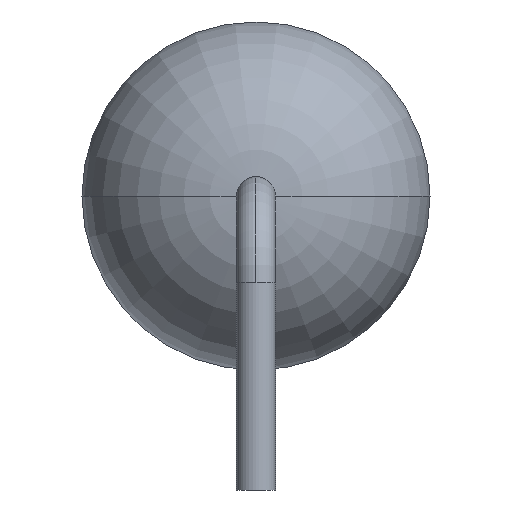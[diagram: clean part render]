
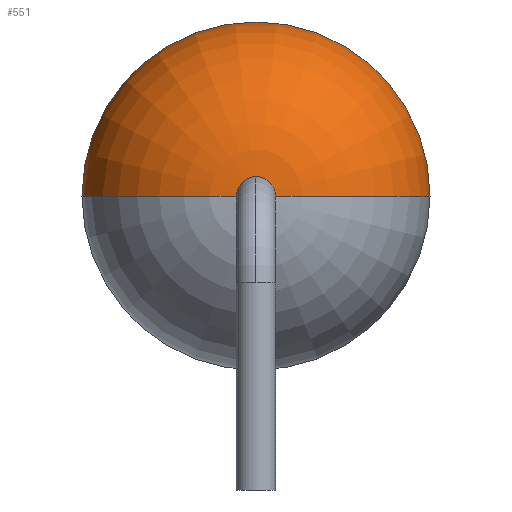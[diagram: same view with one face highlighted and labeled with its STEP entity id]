
A CAD part, left-side view. The second image highlights one B-rep face of the part: STEP entity #551.
In plain terms, the highlighted toroidal (fillet/blend) face has major radius 0.325 mm and minor radius 2.575 mm.
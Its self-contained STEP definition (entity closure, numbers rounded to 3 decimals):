
#508 = CARTESIAN_POINT ( 'NONE',  ( -11.25, -0.325, 2.9 ) ) ;
#509 = VERTEX_POINT ( 'NONE', #508 ) ;
#510 = CARTESIAN_POINT ( 'NONE',  ( -11.25, 0.325, 2.9 ) ) ;
#511 = VERTEX_POINT ( 'NONE', #510 ) ;
#512 = CARTESIAN_POINT ( 'NONE',  ( -11.25, 0., 2.9 ) ) ;
#513 = DIRECTION ( 'NONE',  ( -1., 0., 0. ) ) ;
#514 = DIRECTION ( 'NONE',  ( 0., 1., 0. ) ) ;
#515 = AXIS2_PLACEMENT_3D ( 'NONE', #512, #513, #514 ) ;
#516 = CIRCLE ( 'NONE', #515, 0.325) ;
#517 = EDGE_CURVE ( 'NONE', #509, #511, #516, .T. ) ;
#518 = ORIENTED_EDGE ( 'NONE', *, *, #517, .F. ) ;
#519 = CARTESIAN_POINT ( 'NONE',  ( -8.675, -2.9, 2.9 ) ) ;
#520 = VERTEX_POINT ( 'NONE', #519 ) ;
#521 = CARTESIAN_POINT ( 'NONE',  ( -8.675, -0.325, 2.9 ) ) ;
#522 = DIRECTION ( 'NONE',  ( 0., 0., 1. ) ) ;
#523 = DIRECTION ( 'NONE',  ( 0., -1., 0. ) ) ;
#524 = AXIS2_PLACEMENT_3D ( 'NONE', #521, #522, #523 ) ;
#525 = CIRCLE ( 'NONE', #524, 2.575) ;
#526 = EDGE_CURVE ( 'NONE', #509, #520, #525, .T. ) ;
#527 = ORIENTED_EDGE ( 'NONE', *, *, #526, .T. ) ;
#528 = CARTESIAN_POINT ( 'NONE',  ( -8.675, 2.9, 2.9 ) ) ;
#529 = VERTEX_POINT ( 'NONE', #528 ) ;
#530 = CARTESIAN_POINT ( 'NONE',  ( -8.675, 0., 2.9 ) ) ;
#531 = DIRECTION ( 'NONE',  ( 1., 0., 0. ) ) ;
#532 = DIRECTION ( 'NONE',  ( 0., 1., 0. ) ) ;
#533 = AXIS2_PLACEMENT_3D ( 'NONE', #530, #531, #532 ) ;
#534 = CIRCLE ( 'NONE', #533, 2.9) ;
#535 = EDGE_CURVE ( 'NONE', #529, #520, #534, .T. ) ;
#536 = ORIENTED_EDGE ( 'NONE', *, *, #535, .F. ) ;
#537 = CARTESIAN_POINT ( 'NONE',  ( -8.675, 0.325, 2.9 ) ) ;
#538 = DIRECTION ( 'NONE',  ( 0., 0., -1. ) ) ;
#539 = DIRECTION ( 'NONE',  ( 0., 1., 0. ) ) ;
#540 = AXIS2_PLACEMENT_3D ( 'NONE', #537, #538, #539 ) ;
#541 = CIRCLE ( 'NONE', #540, 2.575) ;
#542 = EDGE_CURVE ( 'NONE', #511, #529, #541, .T. ) ;
#543 = ORIENTED_EDGE ( 'NONE', *, *, #542, .F. ) ;
#544 = EDGE_LOOP ( 'NONE', ( #518, #527, #536, #543 ) ) ;
#545 = FACE_OUTER_BOUND ( 'NONE', #544, .T. ) ;
#546 = CARTESIAN_POINT ( 'NONE',  ( -8.675, 0., 2.9 ) ) ;
#547 = DIRECTION ( 'NONE',  ( 1., 0., 0. ) ) ;
#548 = DIRECTION ( 'NONE',  ( 0., 1., 0. ) ) ;
#549 = AXIS2_PLACEMENT_3D ( 'NONE', #546, #547, #548 ) ;
#550 = TOROIDAL_SURFACE ( 'NONE', #549, 0.325, 2.575 ) ;
#551 = ADVANCED_FACE ( 'NONE', ( #545 ), #550, .T. ) ;
